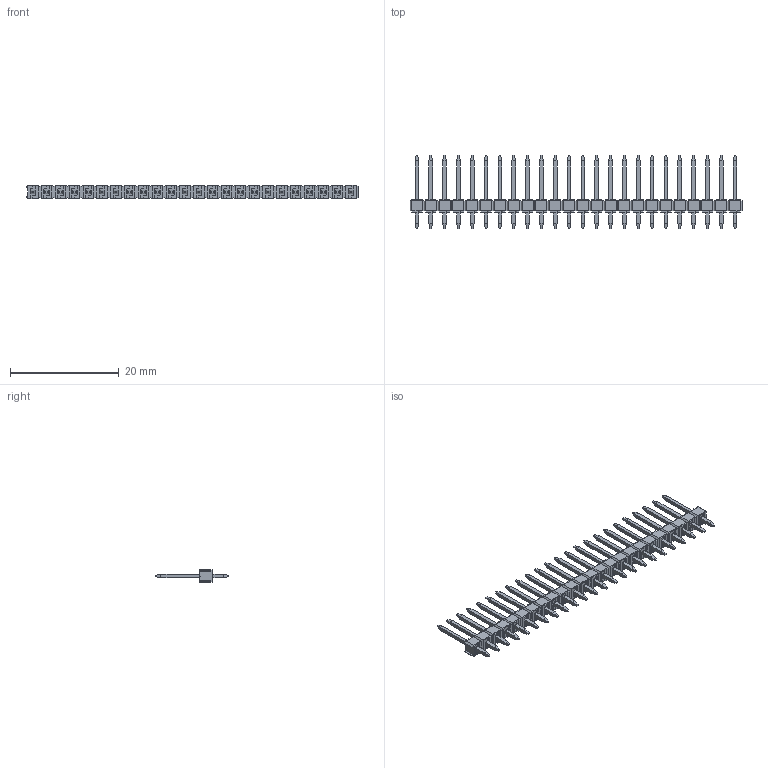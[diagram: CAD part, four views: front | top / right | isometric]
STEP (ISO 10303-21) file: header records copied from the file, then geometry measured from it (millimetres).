
FILE_DESCRIPTION((''),'2;1');
FILE_NAME('022284244','2015-04-13T',('me'),(''),'PRO/ENGINEER BY PARAMETRIC TECHNOLOGY CORPORATION, 2011490','PRO/ENGINEER BY PARAMETRIC TECHNOLOGY CORPORATION, 2011490','');
FILE_SCHEMA(('CONFIG_CONTROL_DESIGN'));
Length unit declared in the file: inch
Products named in the file (1): 022284244
Bounding box: 60.96 x 13.46 x 2.49 mm (x, y, z)
Volume: 413 mm3; surface area: 1359.9 mm2
Topology: 1 solids, 1 shells, 1260 faces, 3206 edges, 2088 vertices
Faces by surface type: plane 1164, cylinder 96
Entity records: 37155 total; most frequent: CARTESIAN_POINT 6507, ORIENTED_EDGE 6316, DIRECTION 5968, EDGE_CURVE 3158, VECTOR 2966, LINE 2966, VERTEX_POINT 2040, AXIS2_PLACEMENT_3D 1501
